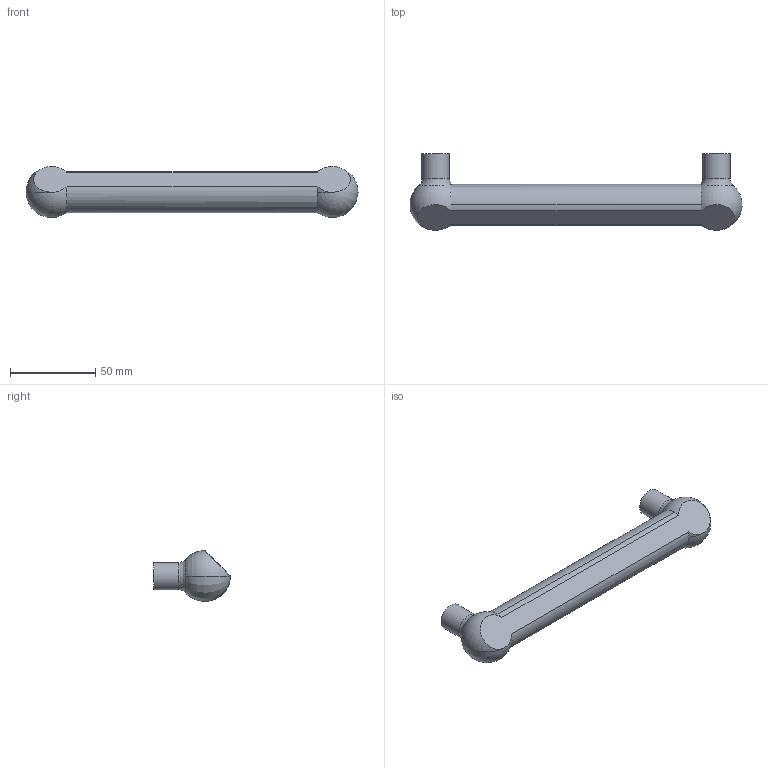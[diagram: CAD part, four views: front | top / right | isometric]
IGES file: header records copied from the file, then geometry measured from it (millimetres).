
Start section: Data from Parasolid IGES Translator 15.0.47, Copyright(c) 2006 Siemens P LM Software. All Rights Reserved.
Global section: file name: 9105765.igs; native system:  By UGS Corp.; preprocessor: XPlus GENERIC/IGES 3.0; author: Noname; organization: Noname; date: 20140122.155725; units: millimetre
Bounding box: 194.97 x 45 x 29.78 mm (x, y, z)
Surface area: 17306 mm2 (no closed solid volume)
Topology: 0 solids, 0 shells, 17 faces, 78 edges, 68 vertices
Faces by surface type: revolution 12, extrusion 5
